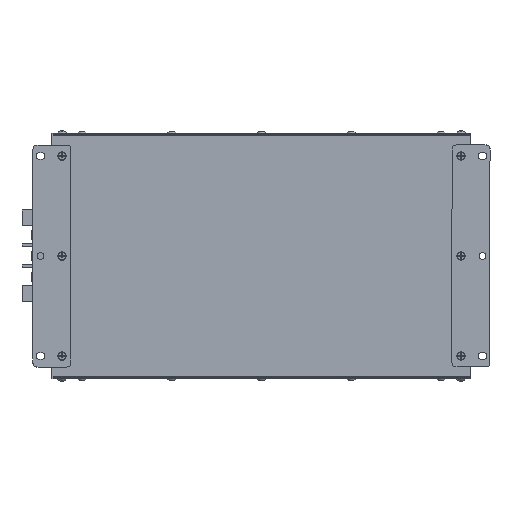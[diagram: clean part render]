
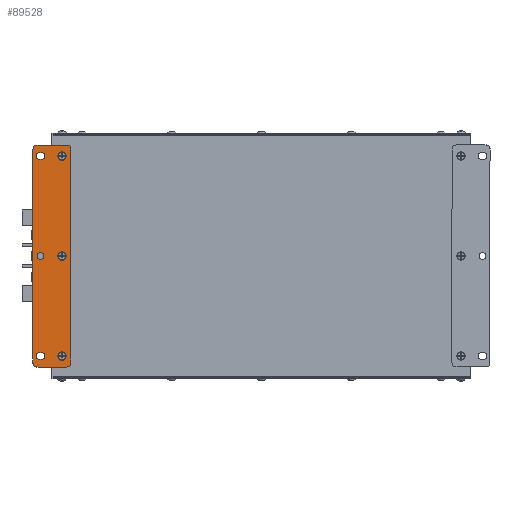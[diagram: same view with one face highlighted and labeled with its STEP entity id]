
A CAD part, front view. The second image highlights one B-rep face of the part: STEP entity #89528.
In plain terms, the highlighted planar face has unit normal (0, -1, 0).
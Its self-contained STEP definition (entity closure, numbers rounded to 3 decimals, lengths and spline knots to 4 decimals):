
#2433=CIRCLE('',#94244,0.1673);
#2434=CIRCLE('',#94246,0.1575);
#2435=CIRCLE('',#94247,0.1575);
#2436=CIRCLE('',#94248,0.1575);
#2437=CIRCLE('',#94249,0.1575);
#2438=CIRCLE('',#94250,0.1673);
#2439=CIRCLE('',#94251,0.1299);
#2440=CIRCLE('',#94252,0.1299);
#2441=CIRCLE('',#94253,0.1299);
#2442=CIRCLE('',#94254,0.1299);
#2443=CIRCLE('',#94255,0.1299);
#2444=CIRCLE('',#94256,0.1673);
#5695=FACE_BOUND('',#14272,.T.);
#5696=FACE_BOUND('',#14273,.T.);
#5697=FACE_BOUND('',#14274,.T.);
#5698=FACE_BOUND('',#14275,.T.);
#5699=FACE_BOUND('',#14276,.T.);
#5700=FACE_BOUND('',#14277,.T.);
#9713=FACE_OUTER_BOUND('',#14271,.T.);
#14271=EDGE_LOOP('',(#58932,#58933,#58934,#58935,#58936,#58937,#58938,#58939));
#14272=EDGE_LOOP('',(#58940));
#14273=EDGE_LOOP('',(#58941,#58942,#58943,#58944));
#14274=EDGE_LOOP('',(#58945,#58946,#58947,#58948));
#14275=EDGE_LOOP('',(#58949));
#14276=EDGE_LOOP('',(#58950));
#14277=EDGE_LOOP('',(#58951));
#19800=LINE('',#129066,#26969);
#19801=LINE('',#129070,#26970);
#19802=LINE('',#129074,#26971);
#19803=LINE('',#129078,#26972);
#19804=LINE('',#129084,#26973);
#19805=LINE('',#129088,#26974);
#19806=LINE('',#129092,#26975);
#19807=LINE('',#129096,#26976);
#26969=VECTOR('',#103537,0.3937);
#26970=VECTOR('',#103540,0.3937);
#26971=VECTOR('',#103543,0.3937);
#26972=VECTOR('',#103546,0.3937);
#26973=VECTOR('',#103551,0.3937);
#26974=VECTOR('',#103554,0.3937);
#26975=VECTOR('',#103557,0.3937);
#26976=VECTOR('',#103560,0.3937);
#34296=VERTEX_POINT('',#129060);
#34297=VERTEX_POINT('',#129064);
#34298=VERTEX_POINT('',#129065);
#34299=VERTEX_POINT('',#129067);
#34300=VERTEX_POINT('',#129069);
#34301=VERTEX_POINT('',#129071);
#34302=VERTEX_POINT('',#129073);
#34303=VERTEX_POINT('',#129075);
#34304=VERTEX_POINT('',#129077);
#34305=VERTEX_POINT('',#129080);
#34306=VERTEX_POINT('',#129082);
#34307=VERTEX_POINT('',#129083);
#34308=VERTEX_POINT('',#129085);
#34309=VERTEX_POINT('',#129087);
#34310=VERTEX_POINT('',#129090);
#34311=VERTEX_POINT('',#129091);
#34312=VERTEX_POINT('',#129093);
#34313=VERTEX_POINT('',#129095);
#34314=VERTEX_POINT('',#129098);
#34315=VERTEX_POINT('',#129100);
#44102=EDGE_CURVE('',#34296,#34296,#2433,.T.);
#44104=EDGE_CURVE('',#34297,#34298,#19800,.T.);
#44105=EDGE_CURVE('',#34298,#34299,#2434,.T.);
#44106=EDGE_CURVE('',#34299,#34300,#19801,.T.);
#44107=EDGE_CURVE('',#34300,#34301,#2435,.T.);
#44108=EDGE_CURVE('',#34301,#34302,#19802,.T.);
#44109=EDGE_CURVE('',#34302,#34303,#2436,.T.);
#44110=EDGE_CURVE('',#34303,#34304,#19803,.T.);
#44111=EDGE_CURVE('',#34304,#34297,#2437,.T.);
#44112=EDGE_CURVE('',#34305,#34305,#2438,.T.);
#44113=EDGE_CURVE('',#34306,#34307,#19804,.T.);
#44114=EDGE_CURVE('',#34307,#34308,#2439,.T.);
#44115=EDGE_CURVE('',#34308,#34309,#19805,.T.);
#44116=EDGE_CURVE('',#34309,#34306,#2440,.T.);
#44117=EDGE_CURVE('',#34310,#34311,#19806,.T.);
#44118=EDGE_CURVE('',#34311,#34312,#2441,.T.);
#44119=EDGE_CURVE('',#34312,#34313,#19807,.T.);
#44120=EDGE_CURVE('',#34313,#34310,#2442,.T.);
#44121=EDGE_CURVE('',#34314,#34314,#2443,.T.);
#44122=EDGE_CURVE('',#34315,#34315,#2444,.T.);
#58932=ORIENTED_EDGE('',*,*,#44104,.T.);
#58933=ORIENTED_EDGE('',*,*,#44105,.T.);
#58934=ORIENTED_EDGE('',*,*,#44106,.T.);
#58935=ORIENTED_EDGE('',*,*,#44107,.T.);
#58936=ORIENTED_EDGE('',*,*,#44108,.T.);
#58937=ORIENTED_EDGE('',*,*,#44109,.T.);
#58938=ORIENTED_EDGE('',*,*,#44110,.T.);
#58939=ORIENTED_EDGE('',*,*,#44111,.T.);
#58940=ORIENTED_EDGE('',*,*,#44112,.F.);
#58941=ORIENTED_EDGE('',*,*,#44113,.T.);
#58942=ORIENTED_EDGE('',*,*,#44114,.T.);
#58943=ORIENTED_EDGE('',*,*,#44115,.T.);
#58944=ORIENTED_EDGE('',*,*,#44116,.T.);
#58945=ORIENTED_EDGE('',*,*,#44117,.T.);
#58946=ORIENTED_EDGE('',*,*,#44118,.T.);
#58947=ORIENTED_EDGE('',*,*,#44119,.T.);
#58948=ORIENTED_EDGE('',*,*,#44120,.T.);
#58949=ORIENTED_EDGE('',*,*,#44121,.T.);
#58950=ORIENTED_EDGE('',*,*,#44122,.F.);
#58951=ORIENTED_EDGE('',*,*,#44102,.F.);
#83226=PLANE('',#94245);
#89528=ADVANCED_FACE('',(#9713,#5695,#5696,#5697,#5698,#5699,#5700),#83226,
 .T.);
#94244=AXIS2_PLACEMENT_3D('',#129061,#103532,#103533);
#94245=AXIS2_PLACEMENT_3D('',#129063,#103535,#103536);
#94246=AXIS2_PLACEMENT_3D('',#129068,#103538,#103539);
#94247=AXIS2_PLACEMENT_3D('',#129072,#103541,#103542);
#94248=AXIS2_PLACEMENT_3D('',#129076,#103544,#103545);
#94249=AXIS2_PLACEMENT_3D('',#129079,#103547,#103548);
#94250=AXIS2_PLACEMENT_3D('',#129081,#103549,#103550);
#94251=AXIS2_PLACEMENT_3D('',#129086,#103552,#103553);
#94252=AXIS2_PLACEMENT_3D('',#129089,#103555,#103556);
#94253=AXIS2_PLACEMENT_3D('',#129094,#103558,#103559);
#94254=AXIS2_PLACEMENT_3D('',#129097,#103561,#103562);
#94255=AXIS2_PLACEMENT_3D('',#129099,#103563,#103564);
#94256=AXIS2_PLACEMENT_3D('',#129101,#103565,#103566);
#103532=DIRECTION('center_axis',(0.,-1.,0.));
#103533=DIRECTION('ref_axis',(0.,0.,-1.));
#103535=DIRECTION('center_axis',(0.,-1.,0.));
#103536=DIRECTION('ref_axis',(-1.,0.,0.));
#103537=DIRECTION('',(-1.,0.,0.));
#103538=DIRECTION('center_axis',(0.,-1.,0.));
#103539=DIRECTION('ref_axis',(0.,0.,1.));
#103540=DIRECTION('',(0.,0.,-1.));
#103541=DIRECTION('center_axis',(0.,-1.,0.));
#103542=DIRECTION('ref_axis',(-1.,0.,0.));
#103543=DIRECTION('',(1.,0.,0.));
#103544=DIRECTION('center_axis',(0.,-1.,0.));
#103545=DIRECTION('ref_axis',(0.,0.,-1.));
#103546=DIRECTION('',(0.,0.,1.));
#103547=DIRECTION('center_axis',(0.,-1.,0.));
#103548=DIRECTION('ref_axis',(1.,0.,0.));
#103549=DIRECTION('center_axis',(0.,-1.,0.));
#103550=DIRECTION('ref_axis',(0.,0.,-1.));
#103551=DIRECTION('',(1.,0.,0.));
#103552=DIRECTION('center_axis',(0.,1.,0.));
#103553=DIRECTION('ref_axis',(0.,0.,1.));
#103554=DIRECTION('',(-1.,0.,0.));
#103555=DIRECTION('center_axis',(0.,1.,0.));
#103556=DIRECTION('ref_axis',(0.,0.,-1.));
#103557=DIRECTION('',(-1.,0.,0.));
#103558=DIRECTION('center_axis',(0.,1.,0.));
#103559=DIRECTION('ref_axis',(0.,0.,-1.));
#103560=DIRECTION('',(1.,0.,0.));
#103561=DIRECTION('center_axis',(0.,1.,0.));
#103562=DIRECTION('ref_axis',(0.,0.,1.));
#103563=DIRECTION('center_axis',(0.,1.,0.));
#103564=DIRECTION('ref_axis',(0.,0.,-1.));
#103565=DIRECTION('center_axis',(0.,-1.,0.));
#103566=DIRECTION('ref_axis',(0.,0.,-1.));
#129060=CARTESIAN_POINT('',(-15.9302,-0.1339,-9.4339));
#129061=CARTESIAN_POINT('Origin',(-15.9302,-0.1339,
-9.6012));
#129063=CARTESIAN_POINT('Origin',(-16.3239,-0.1339,
-5.6642));
#129064=CARTESIAN_POINT('',(-15.7333,-0.1339,-1.2941));
#129065=CARTESIAN_POINT('',(-16.9144,-0.1339,-1.2941));
#129066=CARTESIAN_POINT('',(-15.7333,-0.1339,-1.2941));
#129067=CARTESIAN_POINT('',(-17.0719,-0.1339,-1.4516));
#129068=CARTESIAN_POINT('Origin',(-16.9144,-0.1339,
-1.4516));
#129069=CARTESIAN_POINT('',(-17.0719,-0.1339,-9.8768));
#129070=CARTESIAN_POINT('',(-17.0719,-0.1339,-1.4516));
#129071=CARTESIAN_POINT('',(-16.9144,-0.1339,-10.0343));
#129072=CARTESIAN_POINT('Origin',(-16.9144,-0.1339,
-9.8768));
#129073=CARTESIAN_POINT('',(-15.7333,-0.1339,-10.0343));
#129074=CARTESIAN_POINT('',(-16.9144,-0.1339,-10.0343));
#129075=CARTESIAN_POINT('',(-15.5758,-0.1339,-9.8768));
#129076=CARTESIAN_POINT('Origin',(-15.7333,-0.1339,
-9.8768));
#129077=CARTESIAN_POINT('',(-15.5758,-0.1339,-1.4516));
#129078=CARTESIAN_POINT('',(-15.5758,-0.1339,-9.8768));
#129079=CARTESIAN_POINT('Origin',(-15.7333,-0.1339,
-1.4516));
#129080=CARTESIAN_POINT('',(-15.9302,-0.1339,-5.4969));
#129081=CARTESIAN_POINT('Origin',(-15.9302,-0.1339,
-5.6642));
#129082=CARTESIAN_POINT('',(-16.816,-0.1339,-9.4713));
#129083=CARTESIAN_POINT('',(-16.7372,-0.1339,-9.4713));
#129084=CARTESIAN_POINT('',(-16.816,-0.1339,-9.4713));
#129085=CARTESIAN_POINT('',(-16.7372,-0.1339,-9.7311));
#129086=CARTESIAN_POINT('Origin',(-16.7372,-0.1339,
-9.6012));
#129087=CARTESIAN_POINT('',(-16.816,-0.1339,-9.7311));
#129088=CARTESIAN_POINT('',(-16.7372,-0.1339,-9.7311));
#129089=CARTESIAN_POINT('Origin',(-16.816,-0.1339,
-9.6012));
#129090=CARTESIAN_POINT('',(-16.7372,-0.1339,-1.8571));
#129091=CARTESIAN_POINT('',(-16.816,-0.1339,-1.8571));
#129092=CARTESIAN_POINT('',(-16.7372,-0.1339,-1.8571));
#129093=CARTESIAN_POINT('',(-16.816,-0.1339,-1.5973));
#129094=CARTESIAN_POINT('Origin',(-16.816,-0.1339,
-1.7272));
#129095=CARTESIAN_POINT('',(-16.7372,-0.1339,-1.5973));
#129096=CARTESIAN_POINT('',(-16.816,-0.1339,-1.5973));
#129097=CARTESIAN_POINT('Origin',(-16.7372,-0.1339,
-1.7272));
#129098=CARTESIAN_POINT('',(-16.7766,-0.1339,-5.5343));
#129099=CARTESIAN_POINT('Origin',(-16.7766,-0.1339,-5.6642));
#129100=CARTESIAN_POINT('',(-15.9302,-0.1339,-1.5599));
#129101=CARTESIAN_POINT('Origin',(-15.9302,-0.1339,
-1.7272));
